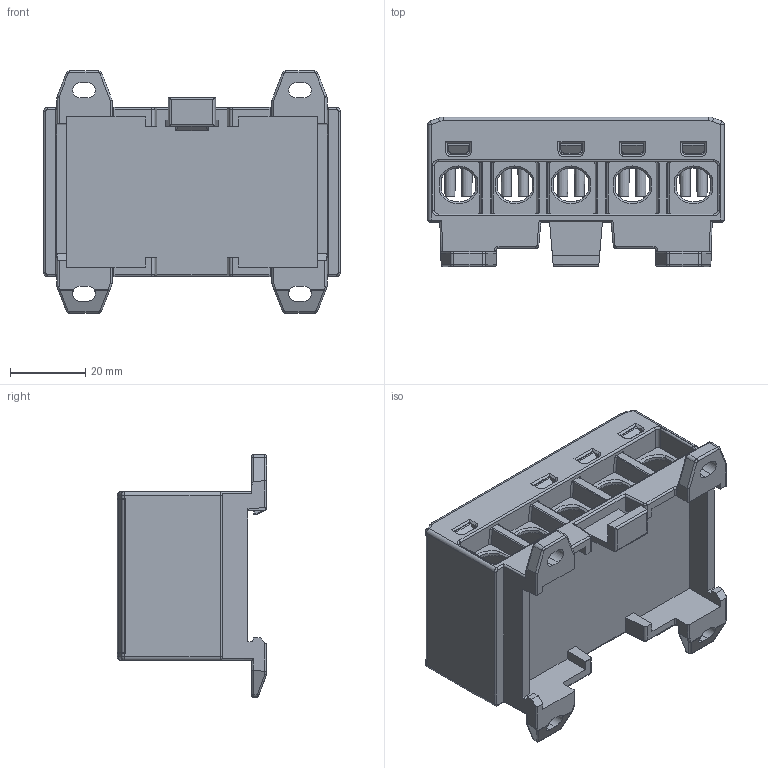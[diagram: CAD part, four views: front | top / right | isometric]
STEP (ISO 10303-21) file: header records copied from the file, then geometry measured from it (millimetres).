
FILE_DESCRIPTION((''),'2;1');
FILE_NAME('04-26_ASM','2018-05-21T',('Administrator'),(''),'PRO/ENGINEER BY PARAMETRIC TECHNOLOGY CORPORATION, 2015240','PRO/ENGINEER BY PARAMETRIC TECHNOLOGY CORPORATION, 2015240','');
FILE_SCHEMA(('CONFIG_CONTROL_DESIGN'));
Length unit declared in the file: millimetre
Products named in the file (4): 04-26-01; 04-26-02; 04-26-04; 04-26_ASM
Assembly tree (4 placements, depth 2):
  04-26_ASM
    04-26-01
    04-26-02
    04-26-04  x2
Bounding box: 78.9 x 39.8 x 64.5 mm (x, y, z)
Volume: 37783.5 mm3; surface area: 43630.8 mm2
Topology: 4 solids, 4 shells, 1076 faces, 2863 edges, 1808 vertices
Faces by surface type: plane 497, cylinder 365, bspline 78, cone 76, torus 36, sphere 24
Entity records: 33499 total; most frequent: CARTESIAN_POINT 9154, ORIENTED_EDGE 5258, DIRECTION 4829, EDGE_CURVE 2629, VERTEX_POINT 1656, AXIS2_PLACEMENT_3D 1623, VECTOR 1583, LINE 1583
